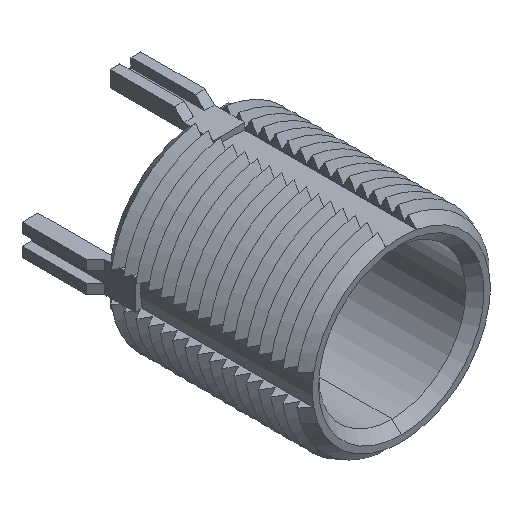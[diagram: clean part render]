
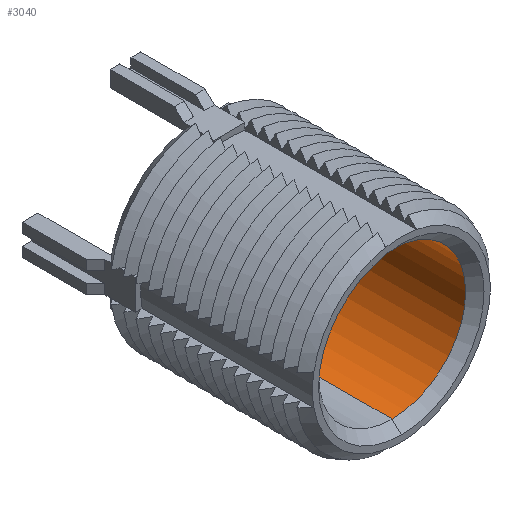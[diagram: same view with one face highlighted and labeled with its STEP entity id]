
A CAD part, isometric view. The second image highlights one B-rep face of the part: STEP entity #3040.
In plain terms, the highlighted cylindrical face has radius 12 mm (diameter 24 mm), a partial arc.
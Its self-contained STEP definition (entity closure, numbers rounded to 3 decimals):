
#200 = AXIS2_PLACEMENT_3D ( 'NONE', #6637, #2886, #4160 ) ;
#417 = CARTESIAN_POINT ( 'NONE',  ( 0., -1.5, -12. ) ) ;
#510 = CARTESIAN_POINT ( 'NONE',  ( 0., -31.5, 12. ) ) ;
#559 = VERTEX_POINT ( 'NONE', #4917 ) ;
#562 = VECTOR ( 'NONE', #5770, 1000. ) ;
#1012 = CARTESIAN_POINT ( 'NONE',  ( 0., -66.941, 0. ) ) ;
#1157 = CARTESIAN_POINT ( 'NONE',  ( 0., -1.5, 12. ) ) ;
#1255 = LINE ( 'NONE', #4530, #562 ) ;
#1701 = ORIENTED_EDGE ( 'NONE', *, *, #7002, .F. ) ;
#1873 = EDGE_CURVE ( 'NONE', #6336, #5853, #3742, .T. ) ;
#2558 = FACE_OUTER_BOUND ( 'NONE', #3323, .T. ) ;
#2820 = CARTESIAN_POINT ( 'NONE',  ( 0., -1.5, 0. ) ) ;
#2886 = DIRECTION ( 'NONE',  ( 0., -1., 0. ) ) ;
#2921 = ORIENTED_EDGE ( 'NONE', *, *, #1873, .T. ) ;
#3040 = ADVANCED_FACE ( 'NONE', ( #2558 ), #3724, .F. ) ;
#3157 = EDGE_CURVE ( 'NONE', #5853, #3175, #4415, .T. ) ;
#3175 = VERTEX_POINT ( 'NONE', #417 ) ;
#3323 = EDGE_LOOP ( 'NONE', ( #1701, #3789, #2921, #5941 ) ) ;
#3724 = CYLINDRICAL_SURFACE ( 'NONE', #7404, 12. ) ;
#3742 = LINE ( 'NONE', #5267, #4531 ) ;
#3789 = ORIENTED_EDGE ( 'NONE', *, *, #5159, .T. ) ;
#4160 = DIRECTION ( 'NONE',  ( 0., 0., 1. ) ) ;
#4194 = DIRECTION ( 'NONE',  ( 0., 0., 1. ) ) ;
#4415 = CIRCLE ( 'NONE', #5722, 12. ) ;
#4530 = CARTESIAN_POINT ( 'NONE',  ( 0., -66.941, -12. ) ) ;
#4531 = VECTOR ( 'NONE', #6566, 1000. ) ;
#4917 = CARTESIAN_POINT ( 'NONE',  ( 0., -31.5, -12. ) ) ;
#5159 = EDGE_CURVE ( 'NONE', #559, #6336, #6638, .T. ) ;
#5267 = CARTESIAN_POINT ( 'NONE',  ( 0., -66.941, 12. ) ) ;
#5722 = AXIS2_PLACEMENT_3D ( 'NONE', #2820, #6590, #4194 ) ;
#5770 = DIRECTION ( 'NONE',  ( 0., 1., 0. ) ) ;
#5853 = VERTEX_POINT ( 'NONE', #1157 ) ;
#5941 = ORIENTED_EDGE ( 'NONE', *, *, #3157, .T. ) ;
#5983 = DIRECTION ( 'NONE',  ( 0., 0., 1. ) ) ;
#6011 = DIRECTION ( 'NONE',  ( 0., 1., 0. ) ) ;
#6336 = VERTEX_POINT ( 'NONE', #510 ) ;
#6566 = DIRECTION ( 'NONE',  ( 0., 1., 0. ) ) ;
#6590 = DIRECTION ( 'NONE',  ( 0., 1., 0. ) ) ;
#6637 = CARTESIAN_POINT ( 'NONE',  ( 0., -31.5, 0. ) ) ;
#6638 = CIRCLE ( 'NONE', #200, 12. ) ;
#7002 = EDGE_CURVE ( 'NONE', #559, #3175, #1255, .T. ) ;
#7404 = AXIS2_PLACEMENT_3D ( 'NONE', #1012, #6011, #5983 ) ;
